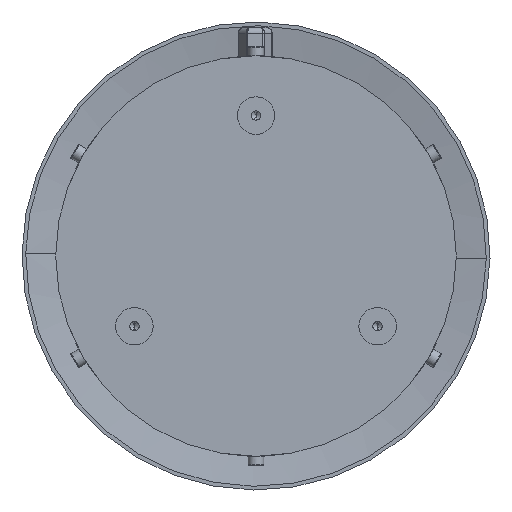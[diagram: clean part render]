
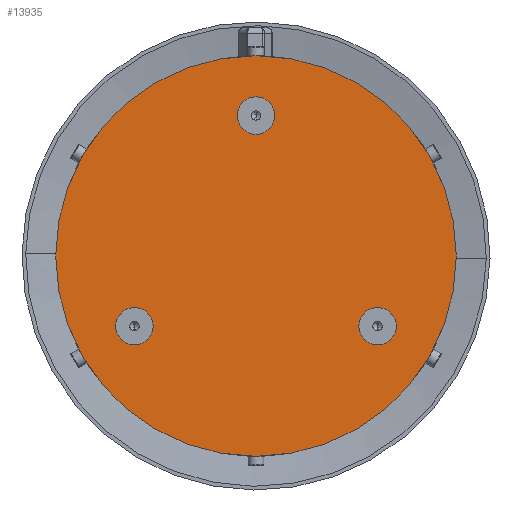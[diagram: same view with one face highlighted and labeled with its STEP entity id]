
A CAD part, front view. The second image highlights one B-rep face of the part: STEP entity #13935.
In plain terms, the highlighted planar face has unit normal (0, -1, 0).
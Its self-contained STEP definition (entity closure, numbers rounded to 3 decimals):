
#68 = CIRCLE ( 'NONE', #8472, 10. ) ;
#83 = DIRECTION ( 'NONE',  ( 0., 0., 1. ) ) ;
#84 = VERTEX_POINT ( 'NONE', #14185 ) ;
#117 = AXIS2_PLACEMENT_3D ( 'NONE', #12234, #366, #4559 ) ;
#125 = DIRECTION ( 'NONE',  ( 0., -1., 0. ) ) ;
#252 = ORIENTED_EDGE ( 'NONE', *, *, #5490, .F. ) ;
#366 = DIRECTION ( 'NONE',  ( 0., 1., 0. ) ) ;
#438 = AXIS2_PLACEMENT_3D ( 'NONE', #8680, #2090, #1119 ) ;
#768 = CIRCLE ( 'NONE', #117, 107. ) ;
#1020 = DIRECTION ( 'NONE',  ( 0., 0., 1. ) ) ;
#1119 = DIRECTION ( 'NONE',  ( 0., 0., 1. ) ) ;
#1340 = DIRECTION ( 'NONE',  ( 0., 0., 1. ) ) ;
#1390 = EDGE_LOOP ( 'NONE', ( #10421, #252 ) ) ;
#1405 = CARTESIAN_POINT ( 'NONE',  ( -64.952, 0., -37.5 ) ) ;
#2090 = DIRECTION ( 'NONE',  ( 0., -1., 0. ) ) ;
#2148 = DIRECTION ( 'NONE',  ( 0., -1., 0. ) ) ;
#2276 = CARTESIAN_POINT ( 'NONE',  ( -64.952, 0., -37.5 ) ) ;
#2539 = VERTEX_POINT ( 'NONE', #6327 ) ;
#2789 = EDGE_LOOP ( 'NONE', ( #7266, #10729 ) ) ;
#3175 = ORIENTED_EDGE ( 'NONE', *, *, #7293, .F. ) ;
#3381 = ORIENTED_EDGE ( 'NONE', *, *, #5303, .F. ) ;
#3445 = FACE_BOUND ( 'NONE', #7187, .T. ) ;
#3533 = CARTESIAN_POINT ( 'NONE',  ( 64.952, 0., -37.5 ) ) ;
#3665 = VERTEX_POINT ( 'NONE', #12329 ) ;
#3755 = CARTESIAN_POINT ( 'NONE',  ( 0., 0., 0. ) ) ;
#3826 = EDGE_CURVE ( 'NONE', #3665, #2539, #8533, .T. ) ;
#4541 = DIRECTION ( 'NONE',  ( 0., -1., 0. ) ) ;
#4559 = DIRECTION ( 'NONE',  ( 0., 0., 1. ) ) ;
#4629 = DIRECTION ( 'NONE',  ( 0., -1., 0. ) ) ;
#5059 = DIRECTION ( 'NONE',  ( 0., 1., 0. ) ) ;
#5238 = CIRCLE ( 'NONE', #11439, 10. ) ;
#5303 = EDGE_CURVE ( 'NONE', #12282, #9093, #9207, .T. ) ;
#5490 = EDGE_CURVE ( 'NONE', #84, #8437, #10062, .T. ) ;
#5634 = CARTESIAN_POINT ( 'NONE',  ( 0., 0., 75. ) ) ;
#5739 = CIRCLE ( 'NONE', #11811, 10. ) ;
#5753 = DIRECTION ( 'NONE',  ( 0., -1., 0. ) ) ;
#5835 = DIRECTION ( 'NONE',  ( 0., 1., 0. ) ) ;
#6327 = CARTESIAN_POINT ( 'NONE',  ( 64.952, 0., -47.5 ) ) ;
#6784 = PLANE ( 'NONE',  #9726 ) ;
#6855 = DIRECTION ( 'NONE',  ( 0., 0., 1. ) ) ;
#6879 = CARTESIAN_POINT ( 'NONE',  ( 0., 0., 75. ) ) ;
#7154 = DIRECTION ( 'NONE',  ( 0., 0., 1. ) ) ;
#7187 = EDGE_LOOP ( 'NONE', ( #3175, #3381 ) ) ;
#7266 = ORIENTED_EDGE ( 'NONE', *, *, #3826, .F. ) ;
#7293 = EDGE_CURVE ( 'NONE', #9093, #12282, #5238, .T. ) ;
#7376 = FACE_OUTER_BOUND ( 'NONE', #1390, .T. ) ;
#7440 = EDGE_CURVE ( 'NONE', #8437, #84, #768, .T. ) ;
#7545 = EDGE_CURVE ( 'NONE', #12561, #12654, #68, .T. ) ;
#8437 = VERTEX_POINT ( 'NONE', #13513 ) ;
#8472 = AXIS2_PLACEMENT_3D ( 'NONE', #6879, #5753, #1340 ) ;
#8533 = CIRCLE ( 'NONE', #8804, 10. ) ;
#8680 = CARTESIAN_POINT ( 'NONE',  ( 64.952, 0., -37.5 ) ) ;
#8747 = FACE_BOUND ( 'NONE', #2789, .T. ) ;
#8804 = AXIS2_PLACEMENT_3D ( 'NONE', #3533, #4541, #12265 ) ;
#9058 = EDGE_CURVE ( 'NONE', #12654, #12561, #5739, .T. ) ;
#9093 = VERTEX_POINT ( 'NONE', #13056 ) ;
#9110 = CIRCLE ( 'NONE', #438, 10. ) ;
#9133 = DIRECTION ( 'NONE',  ( 0., 0., 1. ) ) ;
#9207 = CIRCLE ( 'NONE', #9927, 10. ) ;
#9381 = EDGE_LOOP ( 'NONE', ( #10197, #11056 ) ) ;
#9675 = CARTESIAN_POINT ( 'NONE',  ( 0., 0., 65. ) ) ;
#9726 = AXIS2_PLACEMENT_3D ( 'NONE', #12367, #5835, #9133 ) ;
#9927 = AXIS2_PLACEMENT_3D ( 'NONE', #1405, #4629, #6855 ) ;
#9956 = FACE_BOUND ( 'NONE', #9381, .T. ) ;
#10062 = CIRCLE ( 'NONE', #12347, 107. ) ;
#10197 = ORIENTED_EDGE ( 'NONE', *, *, #7545, .F. ) ;
#10421 = ORIENTED_EDGE ( 'NONE', *, *, #7440, .F. ) ;
#10729 = ORIENTED_EDGE ( 'NONE', *, *, #12363, .F. ) ;
#11056 = ORIENTED_EDGE ( 'NONE', *, *, #9058, .F. ) ;
#11439 = AXIS2_PLACEMENT_3D ( 'NONE', #2276, #125, #83 ) ;
#11811 = AXIS2_PLACEMENT_3D ( 'NONE', #5634, #2148, #1020 ) ;
#12061 = CARTESIAN_POINT ( 'NONE',  ( -64.952, 0., -47.5 ) ) ;
#12234 = CARTESIAN_POINT ( 'NONE',  ( 0., 0., 0. ) ) ;
#12265 = DIRECTION ( 'NONE',  ( 0., 0., 1. ) ) ;
#12282 = VERTEX_POINT ( 'NONE', #12061 ) ;
#12329 = CARTESIAN_POINT ( 'NONE',  ( 64.952, 0., -27.5 ) ) ;
#12347 = AXIS2_PLACEMENT_3D ( 'NONE', #3755, #5059, #7154 ) ;
#12363 = EDGE_CURVE ( 'NONE', #2539, #3665, #9110, .T. ) ;
#12367 = CARTESIAN_POINT ( 'NONE',  ( 0., 0., 0. ) ) ;
#12561 = VERTEX_POINT ( 'NONE', #13394 ) ;
#12654 = VERTEX_POINT ( 'NONE', #9675 ) ;
#13056 = CARTESIAN_POINT ( 'NONE',  ( -64.952, 0., -27.5 ) ) ;
#13394 = CARTESIAN_POINT ( 'NONE',  ( 0., 0., 85. ) ) ;
#13513 = CARTESIAN_POINT ( 'NONE',  ( 0., 0., 107. ) ) ;
#13935 = ADVANCED_FACE ( 'NONE', ( #3445, #8747, #9956, #7376 ), #6784, .F. ) ;
#14185 = CARTESIAN_POINT ( 'NONE',  ( 0., 0., -107. ) ) ;
